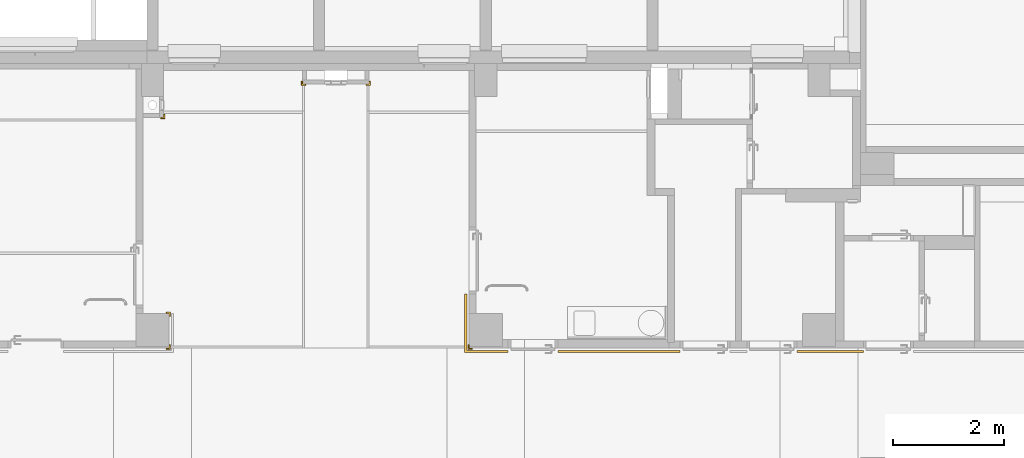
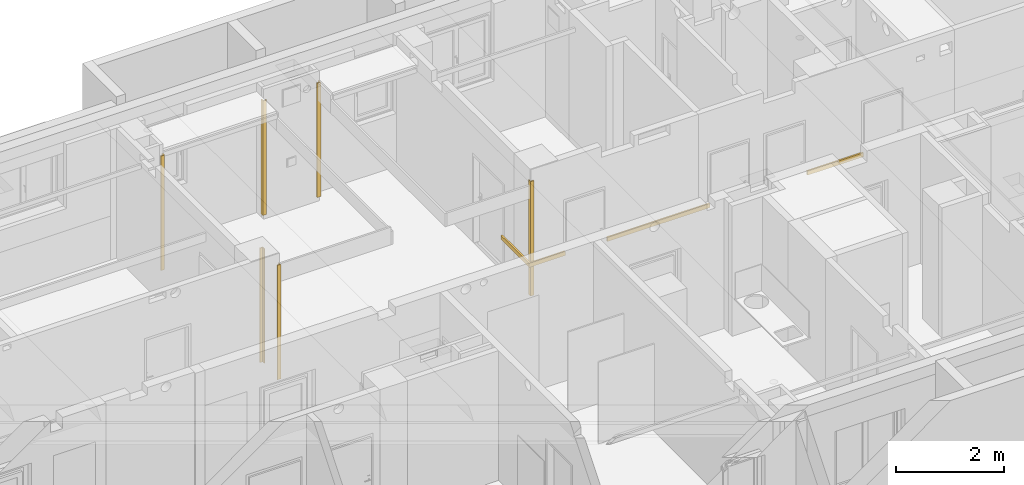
# One storey, part 81 of 84: 9 railings.
"""IFC4 building model written with IfcOpenShell, lengths in metres."""

from ifc_helpers import new_model, entity, si_unit, converted_unit, derived_unit, frame, origin, place, context, subcontext, project, spatial, faceted_brep, element, save


model = new_model("IFC4")

# Units and contexts
model_context = context("Model", 3, precision=1e-05, world=origin())
body_context = subcontext(model_context, "Body", "Model", "MODEL_VIEW")
ifc_project = project(units=[si_unit("LENGTHUNIT", "METRE"), si_unit("AREAUNIT", "SQUARE_METRE"), si_unit("VOLUMEUNIT", "CUBIC_METRE"), si_unit("MASSUNIT", "GRAM", prefix="KILO"), converted_unit("PLANEANGLEUNIT", "DEGREE", entity("IfcPlaneAngleMeasure", 0.0174532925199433), si_unit("PLANEANGLEUNIT", "RADIAN"), dimensions=[0, 0, 0, 0, 0, 0, 0]), derived_unit("THERMALTRANSMITTANCEUNIT", [(si_unit("POWERUNIT", "WATT"), 1), (si_unit("THERMODYNAMICTEMPERATUREUNIT", "KELVIN"), -1), (si_unit("LENGTHUNIT", "METRE"), -2)]), derived_unit("VOLUMETRICFLOWRATEUNIT", [(si_unit("LENGTHUNIT", "METRE"), 3), (converted_unit("TIMEUNIT", "hour", entity("IfcTimeMeasure", 3600.0), si_unit("TIMEUNIT", "SECOND"), dimensions=[0, 0, 1, 0, 0, 0, 0]), -1), (si_unit("LENGTHUNIT", "METRE"), -1)])], contexts=[model_context])

# Site, building, storey
site_placement = place(None, origin())
site = spatial("IfcSite", under=ifc_project, at=site_placement, Name="3. ASŘ", CompositionType="ELEMENT")
building_placement = place(site_placement, origin())
building = spatial("IfcBuilding", under=site, at=building_placement, Name="Pavilon C", CompositionType="ELEMENT")
storey_placement = place(building_placement, frame((0.0, 0.0, -3.3)))
storey = spatial("IfcBuildingStorey", under=building, at=storey_placement, Name="Půdorys 1.PP", CompositionType="ELEMENT", Elevation=-3.3)

# Railings
railing_1_placement = place(storey_placement, frame((17.62, 9.795, 0.81)))
element("IfcRailing", 1, at=railing_1_placement, inside=storey, Name="NÁRAZOVÉ MADLO", PredefinedType="USERDEFINED", context=body_context, shape_type="Brep", body=[
    faceted_brep([(0.04, 1.055, 0.09), (0.0, 1.055, 0.09), (0.0, 1.055, 0.0), (0.04, 1.055, 0.0), (0.04, 0.04, 0.09), (0.780000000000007, 0.04, 0.09), (0.780000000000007, 0.0, 0.09), (0.0, 0.0, 0.09), (0.0, 0.0, 0.0), (0.780000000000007, 0.0, 0.0), (0.780000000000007, 0.04, 0.0), (0.04, 0.04, 0.0)], [[[0, 1, 2, 3]], [[0, 4, 5, 6, 7, 1]], [[1, 7, 8, 2]], [[2, 8, 9, 10, 11, 3]], [[3, 11, 4, 0]], [[5, 10, 9, 6]], [[7, 6, 9, 8]], [[11, 10, 5, 4]]], orient=[[False], [False], [False], [False], [False], [False], [False], [False]]),
])
railing_2_placement = place(storey_placement, frame((19.3, 9.795, 0.81)))
element("IfcRailing", 2, at=railing_2_placement, inside=storey, Name="NÁRAZOVÉ MADLO", PredefinedType="USERDEFINED", context=body_context, shape_type="Brep", body=[
    faceted_brep([(0.0, 0.04, 0.09), (0.0, 0.0, 0.09), (0.0, 0.0, 0.0), (0.0, 0.04, 0.0), (2.2, 0.04, 0.09), (2.2, 0.04, 0.0), (2.2, 0.0, 0.0), (2.2, 0.0, 0.09)], [[[0, 1, 2, 3]], [[4, 5, 6, 7]], [[0, 4, 7, 1]], [[1, 7, 6, 2]], [[2, 6, 5, 3]], [[3, 5, 4, 0]]], orient=[[False], [False], [False], [False], [False], [False]]),
])
railing_3_placement = place(storey_placement, frame((23.6, 9.795, 0.81)))
element("IfcRailing", 3, at=railing_3_placement, inside=storey, Name="NÁRAZOVÉ MADLO", PredefinedType="USERDEFINED", context=body_context, shape_type="Brep", body=[
    faceted_brep([(0.0, 0.04, 0.09), (0.0, 0.0, 0.09), (0.0, 0.0, 0.0), (0.0, 0.04, 0.0), (1.2, 0.04, 0.09), (1.2, 0.04, 0.0), (1.2, 0.0, 0.0), (1.2, 0.0, 0.09)], [[[0, 1, 2, 3]], [[4, 5, 6, 7]], [[0, 4, 7, 1]], [[1, 7, 6, 2]], [[2, 6, 5, 3]], [[3, 5, 4, 0]]], orient=[[False], [False], [False], [False], [False], [False]]),
])
railing_4_placement = place(storey_placement, frame((17.68, 9.855, 0.1)))
element("IfcRailing", 4, at=railing_4_placement, inside=storey, Name="OCHRANA ROHŮ", PredefinedType="USERDEFINED", context=body_context, shape_type="Brep", body=[
    faceted_brep([(0.076, 0.0, 2.6), (0.076, 0.02, 2.6), (0.076, 0.02, 4.54747350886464e-16), (0.076, 0.0, 0.0), (0.0, 0.0, 2.6), (0.0, 0.076, 2.6), (0.02, 0.076, 2.6), (0.02, 0.02, 2.6), (0.02, 0.02, 4.54747350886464e-16), (0.02, 0.076, 4.54747350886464e-16), (0.0, 0.076, 0.0), (0.0, 0.0, 0.0)], [[[0, 1, 2, 3]], [[0, 4, 5, 6, 7, 1]], [[1, 7, 8, 2]], [[2, 8, 9, 10, 11, 3]], [[3, 11, 4, 0]], [[5, 10, 9, 6]], [[7, 6, 9, 8]], [[11, 10, 5, 4]]], orient=[[False], [False], [False], [False], [False], [False], [False], [False]]),
])
railing_5_placement = place(storey_placement, frame((12.244, 9.855, 0.1)))
element("IfcRailing", 5, at=railing_5_placement, inside=storey, Name="OCHRANA ROHŮ", PredefinedType="USERDEFINED", context=body_context, shape_type="Brep", body=[
    faceted_brep([(0.076, 0.076, 2.6), (0.056, 0.076, 2.6), (0.056, 0.076, 4.54747350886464e-16), (0.076, 0.076, 0.0), (0.076, 0.0, 2.6), (0.0, 0.0, 2.6), (0.0, 0.02, 2.6), (0.056, 0.02, 2.6), (0.056, 0.02, 4.54747350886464e-16), (0.0, 0.02, 4.54747350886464e-16), (0.0, 0.0, 0.0), (0.076, 0.0, 0.0)], [[[0, 1, 2, 3]], [[0, 4, 5, 6, 7, 1]], [[1, 7, 8, 2]], [[2, 8, 9, 10, 11, 3]], [[3, 11, 4, 0]], [[5, 10, 9, 6]], [[7, 6, 9, 8]], [[11, 10, 5, 4]]], orient=[[False], [False], [False], [False], [False], [False], [False], [False]]),
])
railing_6_placement = place(storey_placement, frame((12.244, 10.444, 0.1)))
element("IfcRailing", 6, at=railing_6_placement, inside=storey, Name="OCHRANA ROHŮ", PredefinedType="USERDEFINED", context=body_context, shape_type="Brep", body=[
    faceted_brep([(0.0, 0.076, 2.6), (0.0, 0.056, 2.6), (0.0, 0.056, 4.54747350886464e-16), (0.0, 0.076, 0.0), (0.076, 0.076, 2.6), (0.076, 0.0, 2.6), (0.056, 0.0, 2.6), (0.056, 0.056, 2.6), (0.056, 0.056, 4.54747350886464e-16), (0.056, 0.0, 4.54747350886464e-16), (0.076, 0.0, 0.0), (0.076, 0.076, 0.0)], [[[0, 1, 2, 3]], [[0, 4, 5, 6, 7, 1]], [[1, 7, 8, 2]], [[2, 8, 9, 10, 11, 3]], [[3, 11, 4, 0]], [[5, 10, 9, 6]], [[7, 6, 9, 8]], [[11, 10, 5, 4]]], orient=[[False], [False], [False], [False], [False], [False], [False], [False]]),
])
for number, where in (
    (7, (12.144, 14.005, 0.1)),
    (8, (15.844, 14.605, 0.1)),
):
    element("IfcRailing", number, at=place(storey_placement, frame(where)), inside=storey, Name="OCHRANA ROHŮ", PredefinedType="USERDEFINED", context=body_context, shape_type="Brep", body=[
        faceted_brep([(0.076, 0.076, 2.6), (0.056, 0.076, 2.6), (0.056, 0.076, 4.54747350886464e-16), (0.076, 0.076, 0.0), (0.076, 0.0, 2.6), (0.0, 0.0, 2.6), (0.0, 0.02, 2.6), (0.056, 0.02, 2.6), (0.056, 0.02, 4.54747350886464e-16), (0.0, 0.02, 4.54747350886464e-16), (0.0, 0.0, 0.0), (0.076, 0.0, 0.0)], [[[0, 1, 2, 3]], [[0, 4, 5, 6, 7, 1]], [[1, 7, 8, 2]], [[2, 8, 9, 10, 11, 3]], [[3, 11, 4, 0]], [[5, 10, 9, 6]], [[7, 6, 9, 8]], [[11, 10, 5, 4]]], orient=[[False], [False], [False], [False], [False], [False], [False], [False]]),
    ])
railing_7_placement = place(storey_placement, frame((14.68, 14.605, 0.1)))
element("IfcRailing", 9, at=railing_7_placement, inside=storey, Name="OCHRANA ROHŮ", PredefinedType="USERDEFINED", context=body_context, shape_type="Brep", body=[
    faceted_brep([(0.076, 0.0, 2.6), (0.076, 0.02, 2.6), (0.076, 0.02, 4.54747350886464e-16), (0.076, 0.0, 0.0), (0.0, 0.0, 2.6), (0.0, 0.076, 2.6), (0.02, 0.076, 2.6), (0.02, 0.02, 2.6), (0.02, 0.02, 4.54747350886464e-16), (0.02, 0.076, 4.54747350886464e-16), (0.0, 0.076, 0.0), (0.0, 0.0, 0.0)], [[[0, 1, 2, 3]], [[0, 4, 5, 6, 7, 1]], [[1, 7, 8, 2]], [[2, 8, 9, 10, 11, 3]], [[3, 11, 4, 0]], [[5, 10, 9, 6]], [[7, 6, 9, 8]], [[11, 10, 5, 4]]], orient=[[False], [False], [False], [False], [False], [False], [False], [False]]),
])

save(model, "model.ifc")
